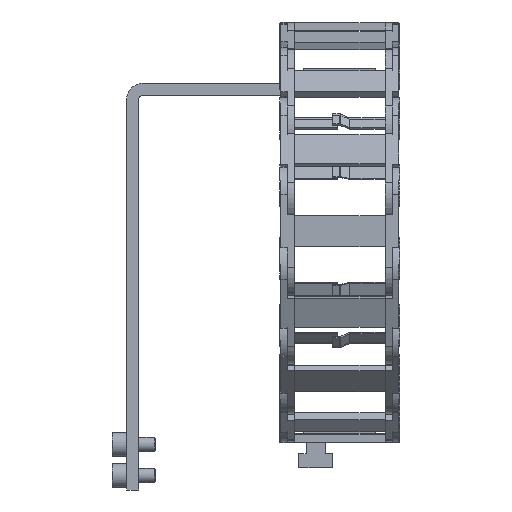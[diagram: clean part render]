
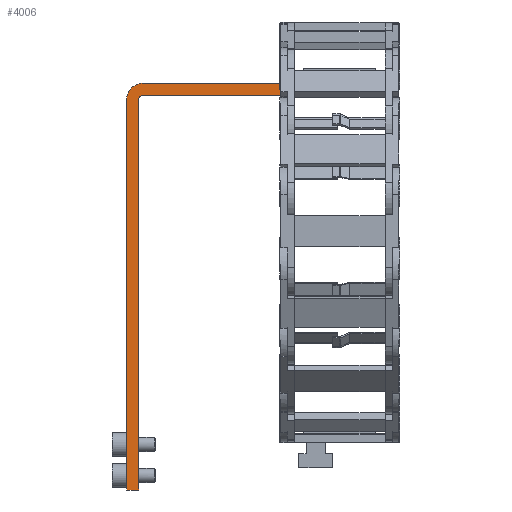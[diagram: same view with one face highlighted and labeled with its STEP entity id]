
A CAD part, left-side view. The second image highlights one B-rep face of the part: STEP entity #4006.
In plain terms, the highlighted planar face has unit normal (-1, 0, 0).
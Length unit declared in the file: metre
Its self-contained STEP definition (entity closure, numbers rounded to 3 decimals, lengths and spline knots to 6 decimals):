
#4006 = ADVANCED_FACE( '', ( #9179 ), #9180, .F. );
#9179 = FACE_OUTER_BOUND( '', #15727, .T. );
#9180 = PLANE( '', #15728 );
#15727 = EDGE_LOOP( '', ( #27572, #27573, #27574, #27575, #27576, #27577, #27578, #27579, #27580 ) );
#15728 = AXIS2_PLACEMENT_3D( '', #27581, #27582, #27583 );
#27572 = ORIENTED_EDGE( '', *, *, #44082, .T. );
#27573 = ORIENTED_EDGE( '', *, *, #39577, .F. );
#27574 = ORIENTED_EDGE( '', *, *, #39503, .T. );
#27575 = ORIENTED_EDGE( '', *, *, #44083, .T. );
#27576 = ORIENTED_EDGE( '', *, *, #44084, .T. );
#27577 = ORIENTED_EDGE( '', *, *, #44085, .T. );
#27578 = ORIENTED_EDGE( '', *, *, #44086, .T. );
#27579 = ORIENTED_EDGE( '', *, *, #44087, .F. );
#27580 = ORIENTED_EDGE( '', *, *, #43300, .F. );
#27581 = CARTESIAN_POINT( '', ( 0.035, 0.0939, 0.1353 ) );
#27582 = DIRECTION( '', ( 1., 0., 0. ) );
#27583 = DIRECTION( '', ( 0., 0., -1. ) );
#39503 = EDGE_CURVE( '', #47424, #47428, #47430, .T. );
#39577 = EDGE_CURVE( '', #47424, #47565, #47566, .T. );
#43300 = EDGE_CURVE( '', #53904, #53905, #53906, .T. );
#44082 = EDGE_CURVE( '', #53904, #47565, #55066, .F. );
#44083 = EDGE_CURVE( '', #47428, #55067, #55068, .T. );
#44084 = EDGE_CURVE( '', #55067, #55069, #55070, .T. );
#44085 = EDGE_CURVE( '', #55069, #55071, #55072, .T. );
#44086 = EDGE_CURVE( '', #55071, #55073, #55074, .T. );
#44087 = EDGE_CURVE( '', #53905, #55073, #55075, .T. );
#47424 = VERTEX_POINT( '', #59243 );
#47428 = VERTEX_POINT( '', #59249 );
#47430 = LINE( '', #59252, #59253 );
#47565 = VERTEX_POINT( '', #59437 );
#47566 = LINE( '', #59438, #59439 );
#53904 = VERTEX_POINT( '', #68138 );
#53905 = VERTEX_POINT( '', #68139 );
#53906 = LINE( '', #68140, #68141 );
#55066 = CIRCLE( '', #69759, 0.007 );
#55067 = VERTEX_POINT( '', #69760 );
#55068 = LINE( '', #69761, #69762 );
#55069 = VERTEX_POINT( '', #69763 );
#55070 = CIRCLE( '', #69764, 0.002 );
#55071 = VERTEX_POINT( '', #69765 );
#55072 = LINE( '', #69766, #69767 );
#55073 = VERTEX_POINT( '', #69768 );
#55074 = LINE( '', #69769, #69770 );
#55075 = LINE( '', #69771, #69772 );
#59243 = CARTESIAN_POINT( '', ( 0.035, 0.0939, -0.0297 ) );
#59249 = CARTESIAN_POINT( '', ( 0.035, 0.0889, -0.0297 ) );
#59252 = CARTESIAN_POINT( '', ( 0.035, 0.0939, -0.0297 ) );
#59253 = VECTOR( '', #75509, 1. );
#59437 = CARTESIAN_POINT( '', ( 0.035, 0.0939, 0.1333 ) );
#59438 = CARTESIAN_POINT( '', ( 0.035, 0.0939, 0.1353 ) );
#59439 = VECTOR( '', #75598, 1. );
#68138 = CARTESIAN_POINT( '', ( 0.035, 0.0869, 0.1403 ) );
#68139 = CARTESIAN_POINT( '', ( 0.035, 0.0299, 0.1403 ) );
#68140 = CARTESIAN_POINT( '', ( 0.035, 0.0939, 0.1403 ) );
#68141 = VECTOR( '', #80159, 1. );
#69759 = AXIS2_PLACEMENT_3D( '', #81059, #81060, #81061 );
#69760 = CARTESIAN_POINT( '', ( 0.035, 0.0889, 0.1333 ) );
#69761 = CARTESIAN_POINT( '', ( 0.035, 0.0889, -0.0297 ) );
#69762 = VECTOR( '', #81062, 1. );
#69763 = CARTESIAN_POINT( '', ( 0.035, 0.0869, 0.1353 ) );
#69764 = AXIS2_PLACEMENT_3D( '', #81063, #81064, #81065 );
#69765 = CARTESIAN_POINT( '', ( 0.035, -0.0191, 0.1353 ) );
#69766 = CARTESIAN_POINT( '', ( 0.035, 0.0939, 0.1353 ) );
#69767 = VECTOR( '', #81066, 1. );
#69768 = CARTESIAN_POINT( '', ( 0.035, -0.0191, 0.1403 ) );
#69769 = CARTESIAN_POINT( '', ( 0.035, -0.0191, 0.1353 ) );
#69770 = VECTOR( '', #81067, 1. );
#69771 = CARTESIAN_POINT( '', ( 0.035, 0.0939, 0.1403 ) );
#69772 = VECTOR( '', #81068, 1. );
#75509 = DIRECTION( '', ( 0., -1., 0. ) );
#75598 = DIRECTION( '', ( 0., 0., 1. ) );
#80159 = DIRECTION( '', ( 0., -1., 0. ) );
#81059 = CARTESIAN_POINT( '', ( 0.035, 0.0869, 0.1333 ) );
#81060 = DIRECTION( '', ( 1., 0., 0. ) );
#81061 = DIRECTION( '', ( 0., 1., 0. ) );
#81062 = DIRECTION( '', ( 0., 0., 1. ) );
#81063 = CARTESIAN_POINT( '', ( 0.035, 0.0869, 0.1333 ) );
#81064 = DIRECTION( '', ( 1., 0., 0. ) );
#81065 = DIRECTION( '', ( 0., 1., 0. ) );
#81066 = DIRECTION( '', ( 0., -1., 0. ) );
#81067 = DIRECTION( '', ( 0., 0., 1. ) );
#81068 = DIRECTION( '', ( 0., -1., 0. ) );
